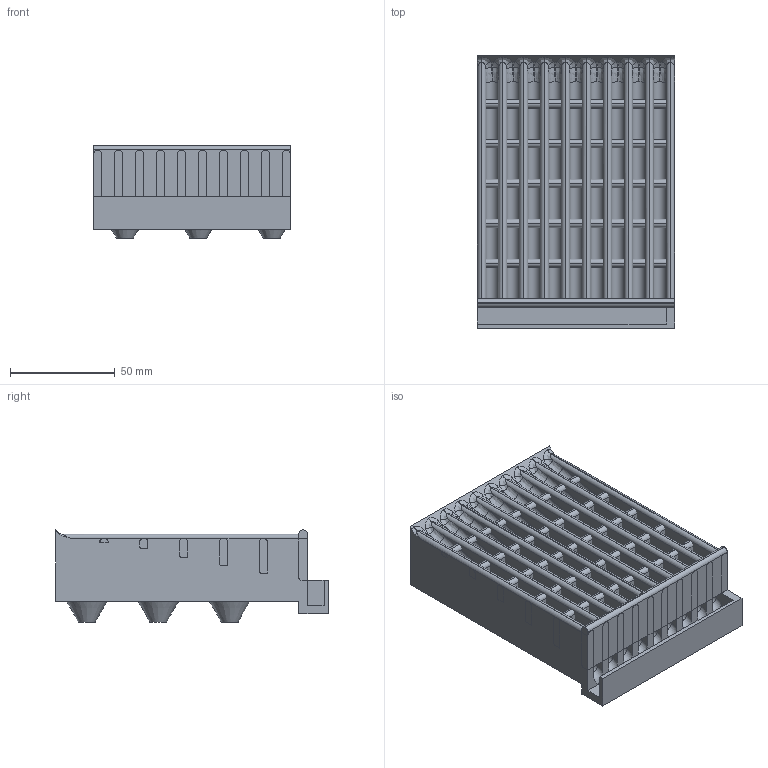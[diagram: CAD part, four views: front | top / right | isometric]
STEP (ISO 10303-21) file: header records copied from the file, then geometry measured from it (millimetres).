
FILE_DESCRIPTION(/* description */ ('STEP AP242','CAx-IF Rec.Pracs.---Representation and Presentation of Product Manufacturing Information (PMI)---4.0---2014-10-13','CAx-IF Rec.Pracs.---3D Tessellated Geometry---0.4---2014-09-14','2;1'),/* implementation_level */ '2;1');
FILE_NAME(/* name */ '66c9b4d0ffaa4d41a46b3454',/* time_stamp */ '2024-08-24T10:24:17Z',/* author */ (''),/* organization */ (''),/* preprocessor_version */ 'ST-DEVELOPER v20',/* originating_system */ ' ',/* authorisation */ ' ');
FILE_SCHEMA (('AP242_MANAGED_MODEL_BASED_3D_ENGINEERING_MIM_LF { 1 0 10303 442 1 1 4 }'));
Length unit declared in the file: metre
Products named in the file (8): Part 2; Part 8; Part 7; Part 6; Part 5; Part 4; Part 3; Part 1
Bounding box: 94 x 130 x 44.07 mm (x, y, z)
Volume: 301793.6 mm3; surface area: 88701.5 mm2
Topology: 8 solids, 8 shells, 235 faces, 576 edges, 360 vertices
Faces by surface type: plane 93, cylinder 69, bspline 58, torus 10, cone 5
Entity records: 7623 total; most frequent: CARTESIAN_POINT 2081, ORIENTED_EDGE 1132, DIRECTION 1128, EDGE_CURVE 566, AXIS2_PLACEMENT_3D 439, VERTEX_POINT 355, LINE 250, VECTOR 250
